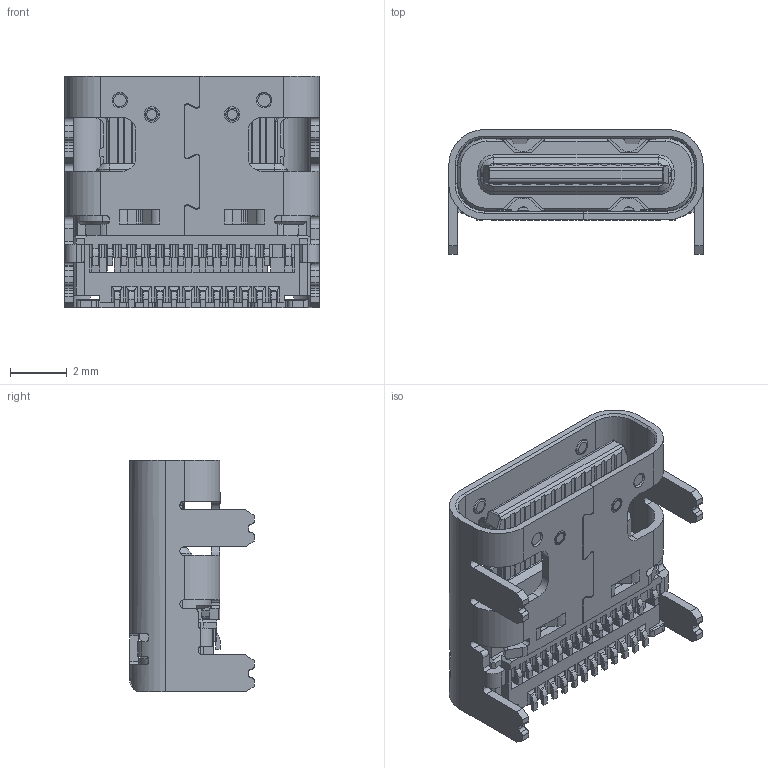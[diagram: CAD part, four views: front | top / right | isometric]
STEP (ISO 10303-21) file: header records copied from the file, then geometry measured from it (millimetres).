
FILE_DESCRIPTION(('Creo Elements/Direct Modeling STEP Export'),'2;1');
FILE_NAME('CX90B2-24P_3D_STP.stp','2023-12-29T11:29:15',(''),(''),'Creo Elements/Direct Modeling STEP processor for AP214 (Solid Model)','Creo Elements/Direct Modeling 19.0G 27-Nov-2017 (C) Parametric Technology GmbH','');
FILE_SCHEMA(('AUTOMOTIVE_DESIGN { 1 0 10303 214 1 1 1 1 }'));
Length unit declared in the file: millimetre
Products named in the file (3): CX90B2-24P.PRT; CX90B2-24P_3D.ASM; CX90B2-24P_4800889000_3D_STEP_.stp
Assembly tree (2 placements, depth 3):
  CX90B2-24P_4800889000_3D_STEP_.stp
    CX90B2-24P_3D.ASM
      CX90B2-24P.PRT
Bounding box: 8.94 x 4.37 x 8.15 mm (x, y, z)
Volume: 125.5 mm3; surface area: 585.3 mm2
Topology: 1 solids, 1 shells, 1269 faces, 3670 edges, 2360 vertices
Faces by surface type: plane 829, cylinder 350, cone 52, torus 36, bspline 2
Entity records: 52323 total; most frequent: CARTESIAN_POINT 7880, ORIENTED_EDGE 7340, DIRECTION 6924, EDGE_CURVE 3670, VECTOR 2740, LINE 2740, VERTEX_POINT 2360, AXIS2_PLACEMENT_3D 2092
